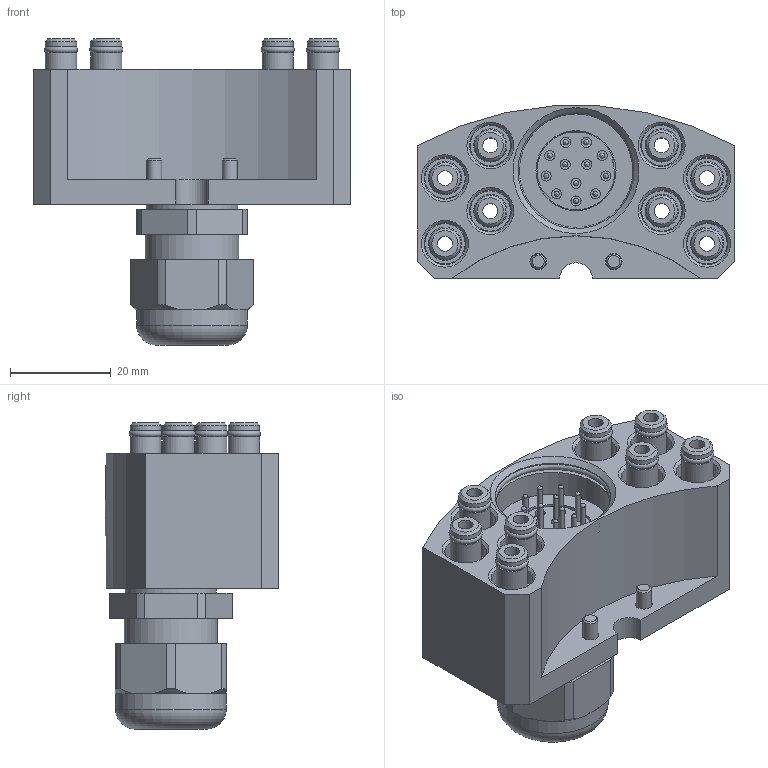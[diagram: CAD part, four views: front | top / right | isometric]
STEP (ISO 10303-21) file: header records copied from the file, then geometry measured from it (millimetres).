
FILE_DESCRIPTION(/* description */ (''),/* implementation_level */ '2;1');
FILE_NAME(/* name */ '\\dc01\daten\CAD\Standard\Daten\3D-Datenbank\Webseite 2020\MGW\MGW080\G-MEK080-O-8Pk4-1E12.stp',/* time_stamp */ '2020-05-11T11:41:08+02:00',/* author */ ('ysplieth'),/* organization */ (''),/* preprocessor_version */ 'ST-DEVELOPER v17',/* originating_system */ 'Autodesk Inventor 2018',/* authorisation */ '');
FILE_SCHEMA (('AUTOMOTIVE_DESIGN { 1 0 10303 214 3 1 1 }'));
Length unit declared in the file: millimetre
Products named in the file (1): Bauteil2
Bounding box: 63 x 34.4 x 60.8 mm (x, y, z)
Volume: 42486 mm3; surface area: 29353.2 mm2
Topology: 10 solids, 10 shells, 569 faces, 1533 edges, 1045 vertices
Faces by surface type: cylinder 231, plane 208, cone 85, torus 33, sphere 12
Full cylindrical faces by diameter (mm): 1 x12, 1.6 x12, 2 x17, 2.013 x2, 3 x10, 3.3 x2, 4 x8, 4.2 x16, 4.8 x8, 5.5 x10, 5.9 x8, 6 x10, 6.2 x16, 8 x8, 8.3 x8, 9 x8, 10 x1, 15.9 x1, 17.1 x1, 18.1 x1, 18.5 x1, 22 x1, 23 x2, 25.5 x2
Entity records: 20398 total; most frequent: CARTESIAN_POINT 4655, DIRECTION 3399, ORIENTED_EDGE 3034, EDGE_CURVE 1517, AXIS2_PLACEMENT_3D 1420, VERTEX_POINT 1045, CIRCLE 850, EDGE_LOOP 719
